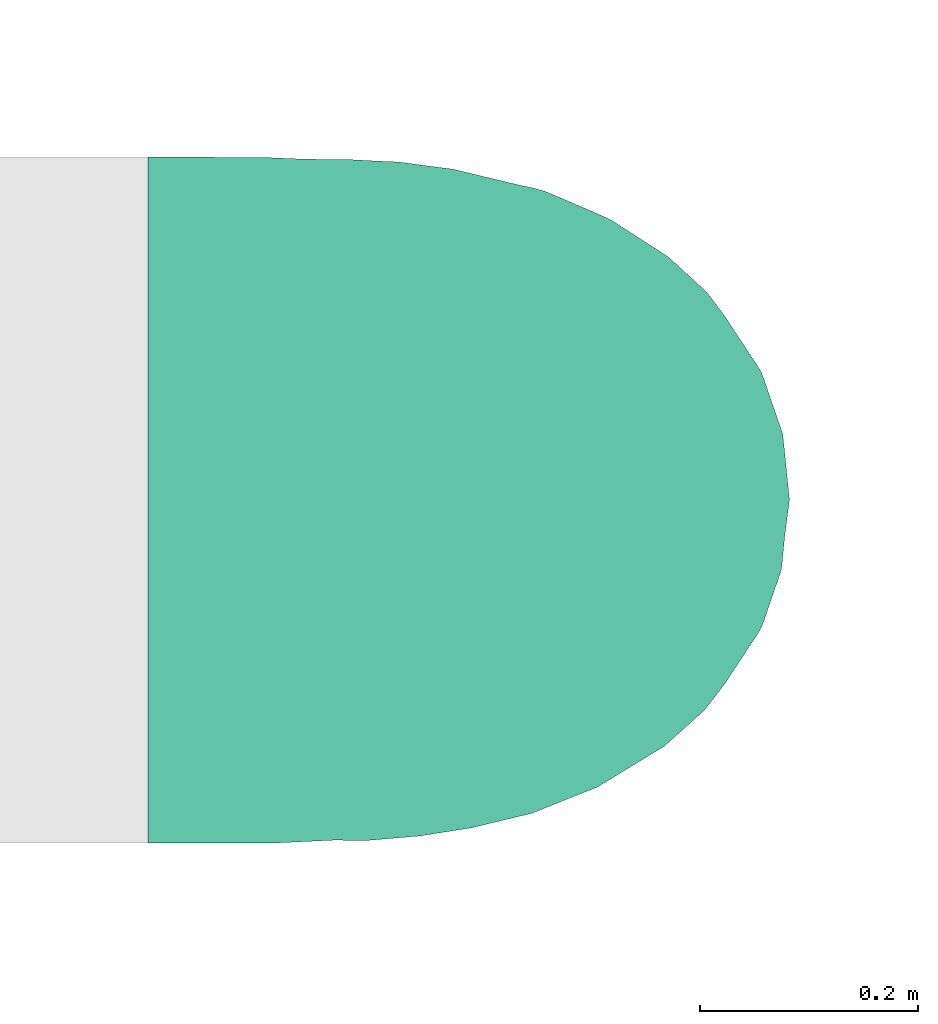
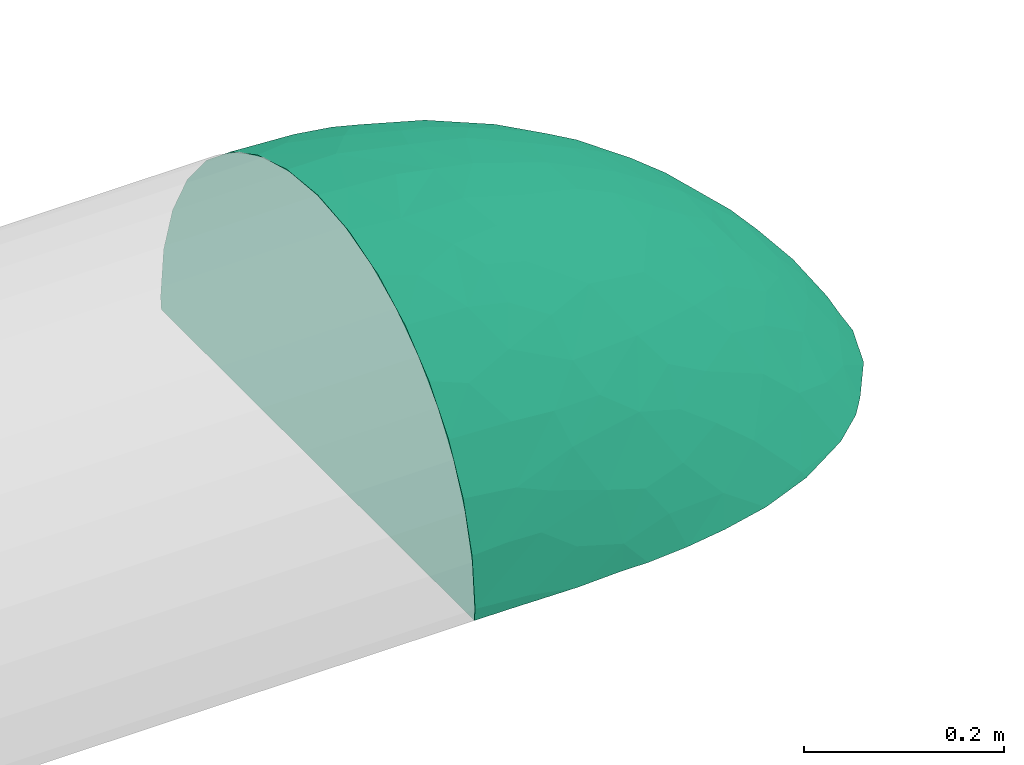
# One storey, part 10 of 10: 1 flow fitting.
"""IFC2X3 building model written with IfcOpenShell, lengths in millimetres."""

import ifcopenshell
import ifcopenshell.guid

model = None  # the IFC model being written
_history = None  # IfcOwnerHistory: only IFC2X3 demands one
_inside = {}  # id of a spatial element -> (the spatial element, [elements in it])
_under = {}  # id of a project, library or spatial element -> (it, [spatial elements below it])
_declared = {}  # id of a project -> (the project, [libraries it declares])
_typed = {}  # id of a type object -> (the type object, [elements of that type])
_made_of = {}  # id of a material, layer set ... -> (it, [elements and type objects made of it])


def new_model(schema):
    """Start an empty IFC model of exactly this schema.

    Asked for "IFC4X3", IfcOpenShell would pick the latest addendum, in which some entities
    have other attributes; the version numbers below select the first issue.
    IFC2X3 requires an IfcOwnerHistory on every rooted entity: one is made here for all.
    """
    global model, _history
    if schema == "IFC4X3":
        model = ifcopenshell.file(schema_version=(4, 3, 0, 0))
    else:
        model = ifcopenshell.file(schema=schema)
    _inside.clear()
    _under.clear()
    _declared.clear()
    _typed.clear()
    _made_of.clear()
    _history = None
    if model.schema == "IFC2X3":
        org = make("IfcOrganization", Name="unknown")
        user = make(
            "IfcPersonAndOrganization",
            ThePerson=make("IfcPerson", FamilyName="unknown"),
            TheOrganization=org,
        )
        app = make(
            "IfcApplication",
            ApplicationDeveloper=org,
            Version="unknown",
            ApplicationFullName="unknown",
            ApplicationIdentifier="unknown",
        )
        _history = make(
            "IfcOwnerHistory",
            OwningUser=user,
            OwningApplication=app,
            ChangeAction="ADDED",
            CreationDate=0,
        )
    return model


def make(cls, **values):
    """One entity of the class cls with the attributes given. An attribute that is None is left unset."""
    return model.create_entity(
        cls, **{name: value for name, value in values.items() if value is not None}
    )


def entity(cls, *values):
    """Any entity or typed value of the class cls, its attributes in the order of the schema. None: left unset."""
    e = model.create_entity(cls)
    for i, value in enumerate(values):
        if value is not None:
            e[i] = value
    return e


def rooted(cls, **values):
    """An entity with a GlobalId (a new one), such as an element, a storey or a relation."""
    return make(cls, GlobalId=ifcopenshell.guid.new(), OwnerHistory=_history, **values)


def si_unit(unit_type, name, prefix=None):
    """IfcSIUnit, for example si_unit("LENGTHUNIT", "METRE", prefix="MILLI")."""
    return make("IfcSIUnit", UnitType=unit_type, Prefix=prefix, Name=name)


def converted_unit(unit_type, name, factor, base, dimensions=None, offset=None):
    """IfcConversionBasedUnit, such as the inch: factor (a typed value) times the base unit."""
    return make(
        "IfcConversionBasedUnit"
        if offset is None
        else "IfcConversionBasedUnitWithOffset",
        ConversionOffset=offset,
        Dimensions=None
        if dimensions is None
        else entity("IfcDimensionalExponents", *dimensions),
        UnitType=unit_type,
        Name=name,
        ConversionFactor=make(
            "IfcMeasureWithUnit", ValueComponent=factor, UnitComponent=base
        ),
    )


def derived_unit(unit_type, elements):
    """IfcDerivedUnit: a product of units, each with its exponent."""
    return make(
        "IfcDerivedUnit",
        Elements=[
            make("IfcDerivedUnitElement", Unit=unit, Exponent=power)
            for unit, power in elements
        ],
        UnitType=unit_type,
    )


def assignment(units):
    """IfcUnitAssignment: the units of a project."""
    return None if units is None else make("IfcUnitAssignment", Units=units)


def point(xyz):
    """IfcCartesianPoint."""
    return None if xyz is None else make("IfcCartesianPoint", Coordinates=xyz)


def direction(xyz):
    """IfcDirection."""
    return None if xyz is None else make("IfcDirection", DirectionRatios=xyz)


def frame(location, z_axis=None, x_axis=None):
    """IfcAxis2Placement3D, a coordinate frame: its origin and axes. An axis left out is left unset."""
    return make(
        "IfcAxis2Placement3D",
        Location=point(location),
        Axis=direction(z_axis),
        RefDirection=direction(x_axis),
    )


def place(relative_to, where):
    """IfcLocalPlacement: puts the frame where relative to a parent placement (None: the world)."""
    return make(
        "IfcLocalPlacement", PlacementRelTo=relative_to, RelativePlacement=where
    )


def context(
    kind, dimensions, precision=None, world=None, true_north=None, identifier=None
):
    """IfcGeometricRepresentationContext, for example the 3D "Model" context."""
    return make(
        "IfcGeometricRepresentationContext",
        ContextIdentifier=identifier,
        ContextType=kind,
        CoordinateSpaceDimension=dimensions,
        Precision=precision,
        WorldCoordinateSystem=world,
        TrueNorth=true_north,
    )


def subcontext(parent, identifier, kind, view, scale=None):
    """IfcGeometricRepresentationSubContext, for example "Body" below "Model"."""
    return make(
        "IfcGeometricRepresentationSubContext",
        ContextIdentifier=identifier,
        ContextType=kind,
        ParentContext=parent,
        TargetScale=scale,
        TargetView=view,
    )


def project(units=None, contexts=None):
    """IfcProject with its units and contexts."""
    return rooted(
        "IfcProject",
        Name="project",
        RepresentationContexts=contexts,
        UnitsInContext=assignment(units),
    )


def spatial(cls, under=None, at=None, **own):
    """A site, building, storey or space (cls), placed at a placement, below another one or the project."""
    s = rooted(cls, ObjectPlacement=at, **own)
    if under is not None:
        _under.setdefault(under.id(), (under, []))[1].append(s)
    return s


def faces_of(points, faces, orient=None, outer=None):
    """IfcFace entities. A face is a list of loops; a loop is a list of indices into points, from 0.

    orient and outer hold one flag for each loop. By default every Orientation is true, the
    first loop of a face is its IfcFaceOuterBound and the others are IfcFaceBound.
    """
    made = []
    for i, loops in enumerate(faces):
        bounds = []
        for j, loop in enumerate(loops):
            is_outer = j == 0 if outer is None else outer[i][j]
            bounds.append(
                make(
                    "IfcFaceOuterBound" if is_outer else "IfcFaceBound",
                    Bound=make("IfcPolyLoop", Polygon=[points[k] for k in loop]),
                    Orientation=True if orient is None else orient[i][j],
                )
            )
        made.append(make("IfcFace", Bounds=bounds))
    return made


def faceted_brep(points, faces, orient=None, outer=None, voids=None):
    """IfcFacetedBrep: a solid bounded by flat faces; with voids (closed shells), ...WithVoids."""
    shared = [point(p) for p in points]
    hull = make("IfcClosedShell", CfsFaces=faces_of(shared, faces, orient, outer))
    if voids is None:
        return make("IfcFacetedBrep", Outer=hull)
    return make(
        "IfcFacetedBrepWithVoids",
        Outer=hull,
        Voids=[
            make(cls, CfsFaces=faces_of(shared, fs, o, b)) for cls, fs, o, b in voids
        ],
    )


def shape(context_of_items, identifier, shape_type, items):
    """IfcShapeRepresentation: the items that make up one representation, for example the "Body"."""
    return make(
        "IfcShapeRepresentation",
        ContextOfItems=context_of_items,
        RepresentationIdentifier=identifier,
        RepresentationType=shape_type,
        Items=items,
    )


def made_of(thing, what):
    """Note that an element or type object is made of a material, layer set ...; save() writes the relation."""
    if what is not None:
        _made_of.setdefault(what.id(), (what, []))[1].append(thing)
    return thing


def type_object(cls, material=None, **own):
    """A type object (cls), such as IfcWallType, which elements share."""
    return made_of(rooted(cls, **own), material)


def element(
    cls,
    number,
    at=None,
    inside=None,
    cuts=None,
    type_object=None,
    material=None,
    context=None,
    identifier="Body",
    shape_type=None,
    held_by="IfcProductDefinitionShape",
    body=None,
    shapes=None,
    **own,
):
    """One element of the class cls, such as IfcWall. Its Tag is "e" and its number.

    at: its placement. inside: the storey or other place that contains it. cuts: it is an
    opening in that element (IfcRelVoidsElement). A single representation is given by context,
    identifier, shape_type and body (its items); several are given by shapes. held_by: the class
    of the entity that holds the representations. save() writes the other relations.
    """
    e = rooted(cls, Tag="e%d" % number, ObjectPlacement=at, **own)
    if body is not None:
        shapes = [shape(context, identifier, shape_type, body)]
    if shapes is not None:
        e.Representation = make(held_by, Representations=shapes)
    if inside is not None:
        _inside.setdefault(inside.id(), (inside, []))[1].append(e)
    if cuts is not None:
        rooted(
            "IfcRelVoidsElement", RelatingBuildingElement=cuts, RelatedOpeningElement=e
        )
    if type_object is not None:
        _typed.setdefault(type_object.id(), (type_object, []))[1].append(e)
    return made_of(e, material)


def aggregate(whole, parts):
    """IfcRelAggregates: a whole, such as a stair, and the parts it consists of."""
    return rooted("IfcRelAggregates", RelatingObject=whole, RelatedObjects=parts)


def save(model, path):
    """Write the relations noted so far, then the file.

    IfcRelAggregates (storeys below a building ...), IfcRelContainedInSpatialStructure (elements
    in a storey), IfcRelDefinesByType, IfcRelAssociatesMaterial and IfcRelDeclares: one each for
    every whole, place, type object, material and project.
    """
    for whole, parts in _under.values():
        aggregate(whole, parts)
    for where, things in _inside.values():
        rooted(
            "IfcRelContainedInSpatialStructure",
            RelatedElements=things,
            RelatingStructure=where,
        )
    for kind, things in _typed.values():
        rooted("IfcRelDefinesByType", RelatedObjects=things, RelatingType=kind)
    for what, things in _made_of.values():
        rooted("IfcRelAssociatesMaterial", RelatedObjects=things, RelatingMaterial=what)
    for by, libraries in _declared.values():
        rooted("IfcRelDeclares", RelatingContext=by, RelatedDefinitions=libraries)
    model.write(path)


model = new_model("IFC2X3")

# Units and contexts
model_context = context("Model", 3, precision=0.01, world=frame((0.0, 4.29681676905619e-09, 0.0)), true_north=direction((4.01073788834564e-13, 1.0)))
plan_context = context("Plan", 3, precision=0.01, world=frame((0.0, 4.29681676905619e-09, 0.0)), true_north=direction((4.01073788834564e-13, 1.0)))
body_context = subcontext(model_context, "Body", "Model", "MODEL_VIEW")
ifc_project = project(units=[converted_unit("PLANEANGLEUNIT", "DEGREE", entity("IfcPositiveLengthMeasure", 0.0174532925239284), si_unit("PLANEANGLEUNIT", "RADIAN"), dimensions=[0, 0, 0, 0, 0, 0, 0]), si_unit("AREAUNIT", "SQUARE_METRE"), si_unit("LENGTHUNIT", "METRE", prefix="MILLI"), si_unit("MASSUNIT", "GRAM", prefix="KILO"), si_unit("POWERUNIT", "WATT"), si_unit("PRESSUREUNIT", "PASCAL"), si_unit("FORCEUNIT", "NEWTON", prefix="KILO"), si_unit("ELECTRICCURRENTUNIT", "AMPERE"), si_unit("THERMODYNAMICTEMPERATUREUNIT", "DEGREE_CELSIUS"), si_unit("TIMEUNIT", "SECOND"), si_unit("VOLUMEUNIT", "CUBIC_METRE"), derived_unit("LINEARVELOCITYUNIT", [(si_unit("LENGTHUNIT", "METRE"), 1), (si_unit("TIMEUNIT", "SECOND"), -1)]), derived_unit("VOLUMETRICFLOWRATEUNIT", [(si_unit("VOLUMEUNIT", "CUBIC_METRE"), 1), (si_unit("TIMEUNIT", "SECOND"), -1)]), derived_unit("THERMALTRANSMITTANCEUNIT", [(si_unit("POWERUNIT", "WATT"), 1), (si_unit("THERMODYNAMICTEMPERATUREUNIT", "KELVIN"), -1), (si_unit("AREAUNIT", "SQUARE_METRE"), -1)])], contexts=[model_context, plan_context])

# Site, building, storey
site_placement = place(None, frame((0.0, -4.29681676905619e-09, 0.0), z_axis=(0.0, 0.0, 1.0), x_axis=(1.0, 0.0, 0.0)))
site = spatial("IfcSite", under=ifc_project, at=site_placement, CompositionType="ELEMENT")
building_placement = place(site_placement, frame((0.0, 4.29681676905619e-09, 0.0), z_axis=(0.0, 0.0, 1.0), x_axis=(1.0, 0.0, 0.0)))
building = spatial("IfcBuilding", under=site, at=building_placement, Name="mc-building", CompositionType="ELEMENT")
storey_placement = place(building_placement, frame((0.0, 0.0, 200300.0), z_axis=(0.0, 0.0, 1.0), x_axis=(1.0, 0.0, 0.0)))
storey = spatial("IfcBuildingStorey", under=building, at=storey_placement, Name="Nivå C", CompositionType="ELEMENT", Elevation=200300.0)

# Flow fitting
duct_fitting_type = type_object("IfcDuctFittingType", Name="magicirc_elbow_short_001", PredefinedType="BEND")
flow_fitting_placement = place(storey_placement, frame((526963.20625, 410005.5375, 2715.0), z_axis=(0.0, 1.0, 0.0), x_axis=(1.0, 0.0, 0.0)))
element("IfcFlowFitting", 1, at=flow_fitting_placement, inside=storey, type_object=duct_fitting_type, Name="magicirc_elbow_short_001", context=body_context, shape_type="Brep", body=[
    faceted_brep([(-378.0, 15.0, -312.016313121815), (-378.0, 15.0, -301.417342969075), (-378.0, -61.45345, -308.94735), (-378.0, 0.0, -315.0), (-378.0, 15.0, -259.005228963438), (-378.0, -261.91292, -175.00462), (-378.0, -175.00462, -261.91292), (-378.0, -222.73864, -222.73864), (-378.0, -120.54529, -291.02204), (-378.0, 15.0, 10.0226796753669), (-378.0, 15.0, 199.32342392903), (-378.0, -222.73864, 222.73864), (-378.0, -308.94735, 61.45345), (-378.0, -291.02204, 120.54529), (-378.0, -261.91292, 175.00462), (-378.0, -308.94735, -61.45345), (-378.0, -315.0, 0.0), (-378.0, -291.02204, -120.54529), (-378.0, 15.0, 294.855852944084), (-378.0, 15.0, 299.707185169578), (-378.0, -175.00462, 261.91292), (-378.0, 15.0, 308.94735), (-378.0, -61.45345, 308.94735), (-378.0, 15.0, 313.522625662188), (-378.0, 0.0, 315.0), (-378.0, -120.54529, 291.02204), (-378.0, 15.0, -313.522625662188), (-287.54535, -309.07129, 0.0), (-343.54578, -312.74174, 0.0), (-319.47298, -305.71128, 65.04261), (-319.47298, -305.71128, -65.04261), (-243.09188, -300.22895, 0.0), (-241.40325, -296.61491, -54.18239), (-198.6384, -291.38659, 0.0), (-173.77602, -278.67174, -57.56429), (-155.71938, -276.81755, 0.0), (-112.80038, -262.24851, 0.0), (-104.28035, -254.94367, -46.19594), (-148.27719, -260.50801, -94.22959), (-188.55757, -271.97408, -99.05873), (-217.31646, -262.78821, -139.09233), (-226.28508, -282.82036, -96.00775), (-263.53784, -273.82413, -136.6888), (-259.80178, -249.87188, -176.51034), (-304.96373, -258.46527, -173.90833), (-284.10103, -288.72249, -109.64302), (-338.51197, -284.52113, -132.67363), (-337.57903, -211.79401, -231.90592), (-280.87059, -223.06791, -214.30422), (-304.87463, -171.25141, -261.17915), (-316.96136, -113.62167, -292.3065), (-254.12539, -165.25421, -259.06164), (-243.85018, -129.61036, -278.57666), (-197.30565, -160.2493, -251.42066), (-156.58864, -130.73091, -260.68779), (-129.05265, -183.24258, -208.66183), (-104.21702, -150.99335, -227.71988), (-42.94079, -168.29465, -173.57772), (-60.39121, -126.54569, -227.19687), (-106.83043, -113.77344, -255.97411), (-66.32907, -84.44386, -258.7365), (13.82865, -88.94017, -213.55372), (-24.39229, -49.53907, -260.68905), (55.1319, -50.89715, -213.55977), (29.70851, 6.801, -262.99418), (-24.404389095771, 15.0, -287.375556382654), (-25.599672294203, 15.0, -287.839236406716), (-25.8558612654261, 15.0, -287.927229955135), (-76.29195, -21.23623, -290.23962), (-80.7583170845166, 15.0, -301.146192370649), (-172.504482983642, 15.0, -312.464995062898), (-176.392292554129, 15.0, -312.790782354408), (-176.42134, 14.94717, -312.7885), (-128.399787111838, 15.0, -308.708888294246), (-146.05803, -27.62969, -302.08863), (-127.309742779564, 15.0, -308.500325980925), (-118.90745, -68.79878, -282.92499), (-169.98092, -62.63603, -295.44047), (-215.12097, -77.55173, -296.70282), (-203.44879, -16.08014, -310.50801), (-258.02597, -32.29623, -311.09002), (-255.577812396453, 15.0, -314.871412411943), (-256.829538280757, 15.0, -314.915168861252), (-260.78636820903, 15.0, -314.976365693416), (-314.57477, 5.05245, -314.99985), (-311.713838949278, 15.0, -314.258351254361), (-318.959758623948, 15.0, -314.06166486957), (-325.761196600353, 15.0, -313.932359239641), (-233.231000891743, 15.0, 313.140198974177), (-193.878443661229, 15.0, 312.822834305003), (-199.83546, -16.32417, 310.2133), (-169.683907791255, 15.0, 311.542971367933), (-159.05677, 1.78169, 309.74665), (-123.97142, -54.39116, 289.7846), (-110.75332, -7.8408, 301.46194), (-147.713872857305, 15.0, 310.549441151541), (-120.748342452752, 15.0, 306.878291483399), (-98.1687931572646, 15.0, 303.992927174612), (-36.8419245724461, 15.0, 289.28021419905), (-24.3231, 2.47771, 283.23407), (-25.0231166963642, 15.0, 286.809424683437), (31.2482639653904, 15.0, 264.556735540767), (47.2424735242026, 15.0, 257.318341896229), (41.61946, 4.89427, 256.02879), (-13.4861231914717, 15.0, 283.676689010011), (4.72865, -34.98913, 254.90441), (-62.86123, -42.26741, 278.43947), (-16.97532, -80.8669, 238.42157), (53.4423, -53.01058, 213.24227), (30.64429, -88.82877, 201.14228), (-3.30364, -117.27693, 200.38524), (-75.91111, -126.49691, 234.76369), (-85.87763, -78.68203, 268.86738), (-127.39037, -100.10396, 270.26726), (-178.05534, -67.60504, 295.01733), (-186.37869, -115.03254, 276.47017), (-139.87647, -140.3649, 249.38078), (-189.32345, -159.07378, 250.29568), (-129.05265, -183.24258, 208.66183), (-214.93706, -194.48615, 228.08935), (-254.12539, -165.25421, 259.06164), (-243.85018, -129.61036, 278.57666), (-316.96136, -113.62167, 292.3065), (-281.67601, -96.97566, 296.39833), (-309.72412, -57.07704, 308.75724), (-242.33664, -54.46401, 305.88137), (-293.91467, -1.0054, 314.83413), (-335.90748, -2.79172, 314.95854), (-378.0, 15.0000000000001, 313.522633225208), (-358.250348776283, 15.0, 313.374170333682), (-347.564361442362, 15.0, 313.293832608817), (-331.16386649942, 15.0, 313.45938868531), (-299.516219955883, 15.0, 313.4792901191), (-274.313213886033, 15.0, 314.825528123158), (-304.87463, -171.25141, 261.17915), (-337.57903, -211.79401, 231.90592), (-280.87059, -223.06791, 214.30422), (-218.54776, -229.27343, 191.82239), (-159.14739, -230.29257, 164.77811), (-217.31646, -262.78821, 139.09233), (-148.06929, -260.52763, 93.94568), (-189.03955, -271.65965, 100.36712), (-226.28508, -282.82036, 96.00775), (-173.77602, -278.67174, 57.56429), (-241.40325, -296.61491, 54.18239), (-284.10103, -288.72249, 109.64302), (-338.51197, -284.52113, 132.67363), (-304.96373, -258.46527, 173.90833), (-261.38695, -272.87368, 137.84581), (-259.80178, -249.87188, 176.51034), (-104.14726, -254.91315, 46.02822), (-72.15019, -242.20206, 0.0), (-60.76423, -234.39763, 45.5594), (-95.75282, -240.46052, 90.16072), (-55.26168, -217.14981, 99.03962), (-21.73567, -210.81464, 54.74932), (-31.5, -222.15561, 0.0), (6.18584, -196.97473, 0.0), (-21.88568, -210.77096, -55.39705), (-60.79237, -234.39363, -45.67206), (-55.51198, -217.00848, -99.77191), (-16.43975, -190.24037, -109.06731), (-87.35102, -209.69287, -148.80442), (-95.83038, -240.42417, -90.37889), (-159.14739, -230.29257, -164.77811), (-214.93706, -194.48615, -228.08935), (-218.54776, -229.27343, -191.82239), (11.21977, -154.08954, -141.85599), (-8.50048, -131.89091, -189.40297), (40.55569, -111.7407, -168.36134), (68.04258, -117.60826, -125.8459), (96.71616, -72.87622, -150.52155), (102.71577, -31.57873, -186.92945), (96.47354, 14.84244, -225.92898), (132.03179, 14.02026, -193.46459), (131.779718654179, 15.0, -194.245459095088), (96.527428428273, 15.0, -225.969582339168), (132.841022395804, 15.0, -193.282783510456), (151.299092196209, 15.0, -169.542272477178), (140.83283, -18.51861, -153.61537), (182.813601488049, 15.0, -121.609657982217), (185.818950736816, 15.0, -116.251618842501), (163.33738, -25.25076, -104.88935), (135.41684, -66.69987, -92.11325), (156.94216, -57.08685, -46.56832), (184.45062, -16.94902, -59.82599), (171.79386, -43.87167, 0.0), (196.97473, -6.18584, 0.0), (206.857404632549, 15.0, -32.6823883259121), (203.803807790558, 15.0, -63.7866135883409), (211.130659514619, 15.0, 0.0), (151.299092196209, 15.0, 169.542272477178), (182.813601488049, 15.0, 121.609657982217), (140.83283, -18.51861, 153.61537), (185.53455173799, 15.0, 116.935117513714), (163.49104, -20.31457, 112.53952), (135.41684, -66.69987, 92.11325), (175.46013, -27.14209, 66.50455), (154.70667, -60.78861, 42.2516), (141.90943, -77.94833, 0.0), (125.96104, -92.624, 46.56832), (112.025, -112.025, 0.0), (124.77825, -93.67613, -47.52536), (69.33154, -137.55211, -80.39371), (101.69089, -102.71264, -92.51395), (28.21477, -166.46676, -91.873), (50.22354, -162.44517, -46.60375), (14.49156, -187.09123, -55.76561), (43.87167, -171.79386, 0.0), (77.94833, -141.90943, 0.0), (69.7203, -137.85921, 78.52657), (28.81953, -171.38336, 76.33365), (21.65049, -153.92129, 129.10408), (-16.02935, -190.51611, 107.83203), (-37.59031, -180.69073, 151.404), (-87.19892, -209.68589, 148.69019), (-79.11633, -181.32282, 183.30623), (-39.4438, -153.97269, 188.24111), (0.60202, -143.89977, 167.51923), (41.92736, -113.04353, 165.34848), (68.99396, -118.21038, 123.32855), (97.10225, -72.64599, 150.29792), (102.09702, -103.10283, 90.66104), (-96.8821, -157.92884, 218.20331), (100.97884, -30.77382, 189.40495), (70.76592, -13.93573, 227.54856), (99.4703068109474, 15.0, 223.57506394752), (101.626209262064, 15.0, 221.716036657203), (90.9050347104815, 15.0, 229.138756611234), (124.908240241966, 15.0, 200.365311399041), (134.44171, 14.09601, 190.97283), (134.320877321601, 15.0, 191.672752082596), (187.047149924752, 15.0, 112.724189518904), (135.130767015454, 15.0, 190.865887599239), (204.899187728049, 15.0, 60.8841616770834), (206.772466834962, 15.0, 43.5254098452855), (34.5884799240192, 15.0, -263.816147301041), (26.2498409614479, 15.0, -267.12434466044), (96.3864224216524, 15.0, -226.055309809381), (187.785834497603, 15.0, -110.592390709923), (-296.78684, -60.76575, -307.52436), (-337.31989, -62.96745, -308.25444), (-281.53939, -99.50262, -295.48547), (-378.0, -30.72673, -311.97369), (-207.317939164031, 15.0, -312.536429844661), (-176.474295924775, 15.0, -312.791564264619)], [[[0, 1, 2, 3]], [[1, 4, 5, 2]], [[6, 2, 5]], [[5, 7, 6]], [[8, 2, 6]], [[4, 9, 5]], [[9, 10, 11, 5]], [[5, 11, 12]], [[13, 12, 11]], [[11, 14, 13]], [[12, 15, 5]], [[15, 12, 16]], [[17, 5, 15]], [[10, 18, 11]], [[18, 19, 20, 11]], [[19, 21, 22, 20]], [[21, 23, 24, 22]], [[25, 20, 22]], [[26, 0, 3]], [[27, 28, 29]], [[27, 30, 28]], [[27, 31, 30]], [[31, 32, 30]], [[32, 31, 33]], [[33, 34, 32]], [[35, 34, 33]], [[35, 36, 34]], [[37, 34, 36]], [[34, 37, 38]], [[38, 39, 34]], [[39, 38, 40]], [[39, 40, 41]], [[42, 41, 40]], [[40, 43, 42]], [[44, 42, 43]], [[44, 45, 42]], [[45, 44, 46]], [[45, 46, 30]], [[17, 30, 46]], [[5, 17, 46]], [[30, 17, 15]], [[5, 46, 44]], [[5, 44, 7]], [[47, 7, 44]], [[48, 47, 44]], [[49, 47, 48]], [[6, 47, 49]], [[8, 6, 49]], [[8, 49, 50]], [[49, 51, 50]], [[51, 52, 50]], [[52, 51, 53]], [[53, 54, 52]], [[54, 53, 55]], [[55, 56, 54]], [[57, 56, 55]], [[58, 56, 57]], [[58, 59, 56]], [[58, 60, 59]], [[61, 60, 58]], [[62, 60, 61]], [[61, 63, 62]], [[62, 63, 64]], [[65, 66, 62, 64]], [[66, 67, 68, 62]], [[67, 69, 68]], [[70, 71, 72]], [[73, 70, 72, 74]], [[75, 73, 74, 68]], [[76, 68, 74]], [[77, 76, 74]], [[76, 77, 54]], [[54, 59, 76]], [[78, 54, 77]], [[78, 77, 79]], [[80, 78, 79]], [[81, 82, 80, 79]], [[82, 83, 84, 80]], [[83, 85, 84]], [[85, 86, 84]], [[86, 87, 84]], [[88, 89, 90]], [[89, 91, 92, 90]], [[90, 92, 93]], [[92, 94, 93]], [[95, 96, 94, 92]], [[96, 97, 94]], [[97, 98, 99, 94]], [[98, 100, 99]], [[101, 102, 103]], [[104, 101, 103, 99]], [[99, 103, 105]], [[99, 105, 106]], [[107, 106, 105]], [[107, 105, 108]], [[108, 109, 107]], [[110, 107, 109]], [[107, 110, 111]], [[111, 112, 107]], [[112, 111, 113]], [[113, 93, 112]], [[93, 106, 112]], [[113, 114, 93]], [[115, 114, 113]], [[113, 116, 115]], [[117, 115, 116]], [[116, 118, 117]], [[117, 118, 119]], [[119, 120, 117]], [[121, 117, 120]], [[121, 120, 122]], [[121, 122, 123]], [[123, 122, 124]], [[124, 125, 123]], [[115, 123, 125]], [[125, 124, 126]], [[127, 126, 124]], [[127, 124, 24]], [[128, 129, 127, 24]], [[129, 130, 127]], [[130, 131, 127]], [[124, 22, 24]], [[131, 132, 126, 127]], [[132, 133, 126]], [[90, 125, 126]], [[114, 125, 90]], [[22, 124, 122]], [[22, 122, 25]], [[25, 122, 134]], [[25, 134, 20]], [[20, 134, 135]], [[136, 135, 134]], [[136, 134, 119]], [[137, 136, 119]], [[137, 119, 138]], [[138, 139, 137]], [[139, 138, 140]], [[141, 139, 140]], [[139, 141, 142]], [[142, 141, 143]], [[142, 143, 144]], [[145, 142, 144]], [[145, 144, 29]], [[29, 144, 31]], [[145, 29, 146]], [[145, 146, 147]], [[147, 148, 145]], [[147, 149, 148]], [[139, 148, 149]], [[147, 136, 149]], [[14, 147, 146]], [[14, 11, 147]], [[11, 135, 147]], [[13, 14, 146]], [[13, 146, 29]], [[12, 13, 29]], [[148, 142, 145]], [[144, 143, 33]], [[139, 142, 148]], [[140, 143, 141]], [[143, 140, 150]], [[150, 36, 143]], [[36, 150, 151]], [[152, 151, 150]], [[150, 153, 152]], [[153, 154, 152]], [[155, 152, 154]], [[156, 152, 155]], [[157, 156, 155]], [[158, 156, 157]], [[156, 158, 159]], [[160, 159, 158]], [[161, 160, 158]], [[160, 161, 162]], [[160, 162, 163]], [[164, 163, 162]], [[163, 164, 38]], [[55, 164, 162]], [[164, 55, 165]], [[166, 164, 165]], [[166, 165, 48]], [[166, 48, 43]], [[40, 164, 166]], [[57, 162, 161]], [[161, 167, 57]], [[57, 167, 168]], [[169, 168, 167]], [[170, 169, 167]], [[169, 170, 171]], [[63, 169, 171]], [[172, 63, 171]], [[63, 172, 173]], [[174, 173, 172]], [[175, 176, 173, 174]], [[177, 175, 174]], [[178, 177, 174, 179]], [[180, 178, 179]], [[181, 180, 179, 182]], [[182, 179, 183]], [[183, 184, 182]], [[184, 185, 182]], [[186, 185, 184]], [[185, 186, 187]], [[188, 189, 185, 187]], [[190, 188, 187]], [[191, 192, 193]], [[192, 194, 195, 193]], [[193, 195, 196]], [[195, 197, 196]], [[197, 198, 196]], [[186, 198, 197]], [[199, 198, 186]], [[200, 198, 199]], [[199, 201, 200]], [[202, 201, 199]], [[202, 199, 184]], [[202, 203, 201]], [[203, 202, 204]], [[203, 204, 170]], [[205, 203, 170]], [[205, 206, 203]], [[207, 206, 205]], [[208, 206, 207]], [[206, 208, 209]], [[209, 208, 210]], [[210, 201, 209]], [[210, 208, 211]], [[211, 212, 210]], [[211, 213, 212]], [[213, 214, 212]], [[214, 213, 154]], [[214, 154, 215]], [[216, 214, 215]], [[217, 214, 216]], [[217, 218, 214]], [[110, 218, 217]], [[218, 110, 219]], [[212, 218, 219]], [[219, 220, 212]], [[219, 221, 220]], [[219, 109, 221]], [[222, 220, 221]], [[222, 221, 196]], [[196, 200, 222]], [[200, 210, 222]], [[210, 220, 222]], [[216, 223, 217]], [[111, 217, 223]], [[111, 223, 116]], [[223, 216, 118]], [[216, 215, 118]], [[118, 215, 138]], [[153, 138, 215]], [[212, 214, 218]], [[213, 211, 155]], [[210, 212, 220]], [[208, 157, 211]], [[207, 157, 208]], [[205, 161, 207]], [[206, 209, 203]], [[202, 183, 204]], [[204, 183, 171]], [[201, 203, 209]], [[210, 200, 201]], [[198, 200, 196]], [[193, 196, 221]], [[193, 221, 224]], [[224, 221, 108]], [[108, 225, 224]], [[226, 227, 224, 225]], [[228, 226, 225, 103]], [[227, 229, 230, 224]], [[229, 231, 230]], [[225, 108, 103]], [[224, 230, 193]], [[194, 232, 197, 195]], [[233, 191, 193, 230]], [[232, 234, 197]], [[234, 235, 187, 197]], [[236, 237, 64]], [[238, 236, 64, 173]], [[235, 190, 187]], [[189, 239, 185]], [[186, 197, 187]], [[199, 186, 184]], [[202, 184, 183]], [[183, 179, 171]], [[239, 181, 182, 185]], [[176, 238, 173]], [[174, 172, 179]], [[171, 179, 172]], [[170, 204, 171]], [[167, 205, 170]], [[168, 169, 61]], [[161, 205, 167]], [[158, 207, 161]], [[163, 159, 160]], [[37, 159, 163]], [[159, 37, 151]], [[151, 156, 159]], [[207, 158, 157]], [[157, 155, 211]], [[213, 155, 154]], [[153, 215, 154]], [[152, 156, 151]], [[153, 150, 140]], [[153, 140, 138]], [[149, 137, 139]], [[149, 136, 137]], [[136, 147, 135]], [[135, 11, 20]], [[115, 121, 123]], [[122, 120, 134]], [[120, 119, 134]], [[138, 119, 118]], [[223, 118, 116]], [[121, 115, 117]], [[114, 115, 125]], [[113, 111, 116]], [[217, 111, 110]], [[219, 110, 109]], [[109, 108, 221]], [[106, 107, 112]], [[105, 103, 108]], [[102, 228, 103]], [[231, 233, 230]], [[100, 104, 99]], [[99, 106, 94]], [[106, 93, 94]], [[93, 114, 90]], [[91, 95, 92]], [[133, 88, 90, 126]], [[87, 26, 3, 84]], [[84, 3, 240]], [[241, 240, 3]], [[242, 240, 241]], [[240, 242, 78]], [[52, 78, 242]], [[50, 242, 241]], [[50, 241, 2]], [[243, 2, 241]], [[243, 241, 3]], [[240, 80, 84]], [[244, 81, 79]], [[245, 244, 79, 72]], [[78, 80, 240]], [[74, 79, 77]], [[60, 68, 76]], [[79, 74, 72]], [[71, 245, 72]], [[69, 75, 68]], [[237, 65, 64]], [[173, 64, 63]], [[169, 63, 61]], [[62, 68, 60]], [[168, 61, 58]], [[59, 60, 76]], [[168, 58, 57]], [[162, 57, 55]], [[56, 59, 54]], [[53, 165, 55]], [[78, 52, 54]], [[51, 165, 53]], [[50, 52, 242]], [[49, 165, 51]], [[2, 8, 50]], [[165, 49, 48]], [[6, 7, 47]], [[48, 44, 43]], [[43, 40, 166]], [[42, 45, 41]], [[45, 32, 41]], [[40, 38, 164]], [[41, 34, 39]], [[163, 38, 37]], [[37, 36, 151]], [[143, 36, 35]], [[35, 33, 143]], [[34, 41, 32]], [[33, 31, 144]], [[45, 30, 32]], [[15, 28, 30]], [[15, 16, 28]], [[28, 16, 12]], [[31, 27, 29]], [[29, 28, 12]], [[26, 87, 86, 85, 83, 82, 81, 244, 245, 71, 70, 73, 75, 69, 67, 66, 65, 237, 236, 238, 176, 175, 177, 178, 180, 181, 239, 189, 188, 190, 235, 234, 232, 194, 192, 191, 233, 231, 229, 227, 226, 228, 102, 101, 104, 100, 98, 97, 96, 95, 91, 89, 88, 133, 132, 131, 130, 129, 23, 21, 19, 18, 10, 9, 4, 1, 0]]], orient=[[False], [False], [False], [False], [False], [False], [False], [False], [False], [False], [False], [False], [False], [False], [False], [False], [False], [False], [False], [False], [False], [False], [False], [False], [False], [False], [False], [False], [False], [False], [False], [False], [False], [False], [False], [False], [False], [False], [False], [False], [False], [False], [False], [False], [False], [False], [False], [False], [False], [False], [False], [False], [False], [False], [False], [False], [False], [False], [False], [False], [False], [False], [False], [False], [False], [False], [False], [False], [False], [False], [False], [False], [False], [False], [False], [False], [False], [False], [False], [False], [False], [False], [False], [False], [False], [False], [False], [False], [False], [False], [False], [False], [False], [False], [False], [False], [False], [False], [False], [False], [False], [False], [False], [False], [False], [False], [False], [False], [False], [False], [False], [False], [False], [False], [False], [False], [False], [False], [False], [False], [False], [False], [False], [False], [False], [False], [False], [False], [False], [False], [False], [False], [False], [False], [False], [False], [False], [False], [False], [False], [False], [False], [False], [False], [False], [False], [False], [False], [False], [False], [False], [False], [False], [False], [False], [False], [False], [False], [False], [False], [False], [False], [False], [False], [False], [False], [False], [False], [False], [False], [False], [False], [False], [False], [False], [False], [False], [False], [False], [False], [False], [False], [False], [False], [False], [False], [False], [False], [False], [False], [False], [False], [False], [False], [False], [False], [False], [False], [False], [False], [False], [False], [False], [False], [False], [False], [False], [False], [False], [False], [False], [False], [False], [False], [False], [False], [False], [False], [False], [False], [False], [False], [False], [False], [False], [False], [False], [False], [False], [False], [False], [False], [False], [False], [False], [False], [False], [False], [False], [False], [False], [False], [False], [False], [False], [False], [False], [False], [False], [False], [False], [False], [False], [False], [False], [False], [False], [False], [False], [False], [False], [False], [False], [False], [False], [False], [False], [False], [False], [False], [False], [False], [False], [False], [False], [False], [False], [False], [False], [False], [False], [False], [False], [False], [False], [False], [False], [False], [False], [False], [False], [False], [False], [False], [False], [False], [False], [False], [False], [False], [False], [False], [False], [False], [False], [False], [False], [False], [False], [False], [False], [False], [False], [False], [False], [False], [False], [False], [False], [False], [False], [False], [False], [False], [False], [False], [False], [False], [False], [False], [False], [False], [False], [False], [False], [False], [False], [False], [False], [False], [False], [False], [False], [False], [False], [False], [False], [False], [False], [False], [False], [False], [False], [False], [False], [False], [False], [False], [False], [False], [False], [False], [False], [False], [False], [False], [False], [False], [False], [False], [False], [False], [False], [False], [False], [False], [False], [False], [False], [False], [False], [False], [False], [False], [False], [False], [False]]),
])

save(model, "model.ifc")
